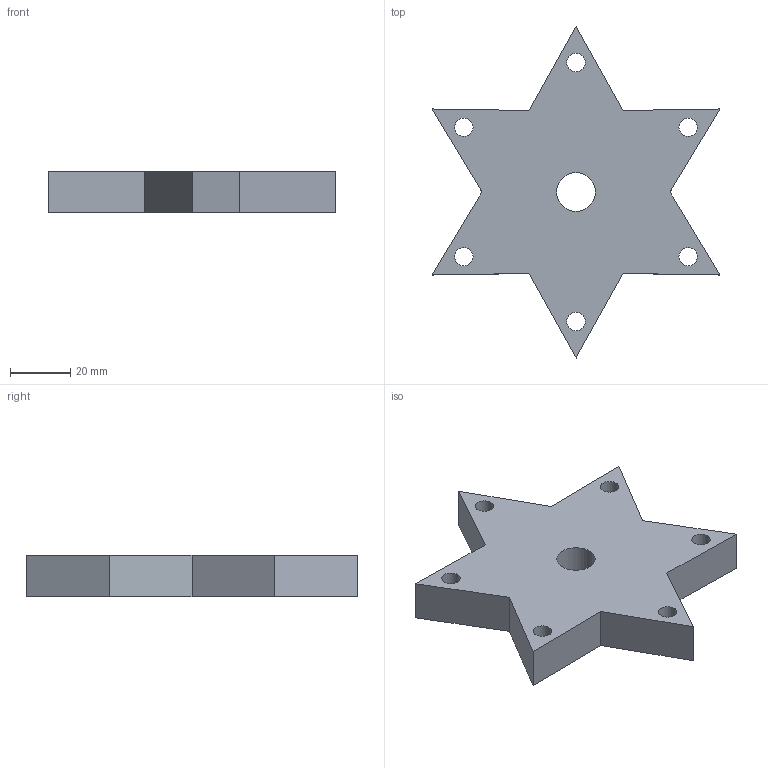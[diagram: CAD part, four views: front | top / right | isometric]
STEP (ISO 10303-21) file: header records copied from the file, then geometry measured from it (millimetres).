
FILE_DESCRIPTION(('Open CASCADE Model'),'2;1');
FILE_NAME('Open CASCADE Shape Model','2026-09-09T00:35:46',('Author'),( 'Open CASCADE'),'Open CASCADE STEP processor 7.7','Open CASCADE 7.7' ,'Unknown');
FILE_SCHEMA(('AUTOMOTIVE_DESIGN { 1 0 10303 214 1 1 1 1 }'));
Length unit declared in the file: millimetre
Products named in the file (1): Open CASCADE STEP translator 7.7 1
Bounding box: 95.44 x 110.2 x 13.83 mm (x, y, z)
Volume: 67219.2 mm3; surface area: 17196.5 mm2
Topology: 1 solids, 1 shells, 21 faces, 57 edges, 38 vertices
Faces by surface type: plane 14, cylinder 7
Full cylindrical faces by diameter (mm): 6.1 x6, 12.86 x1
Entity records: 1486 total; most frequent: CARTESIAN_POINT 315, DIRECTION 215, LINE 143, VECTOR 143, ORIENTED_EDGE 114, PCURVE 114, DEFINITIONAL_REPRESENTATION 114, EDGE_CURVE 57
